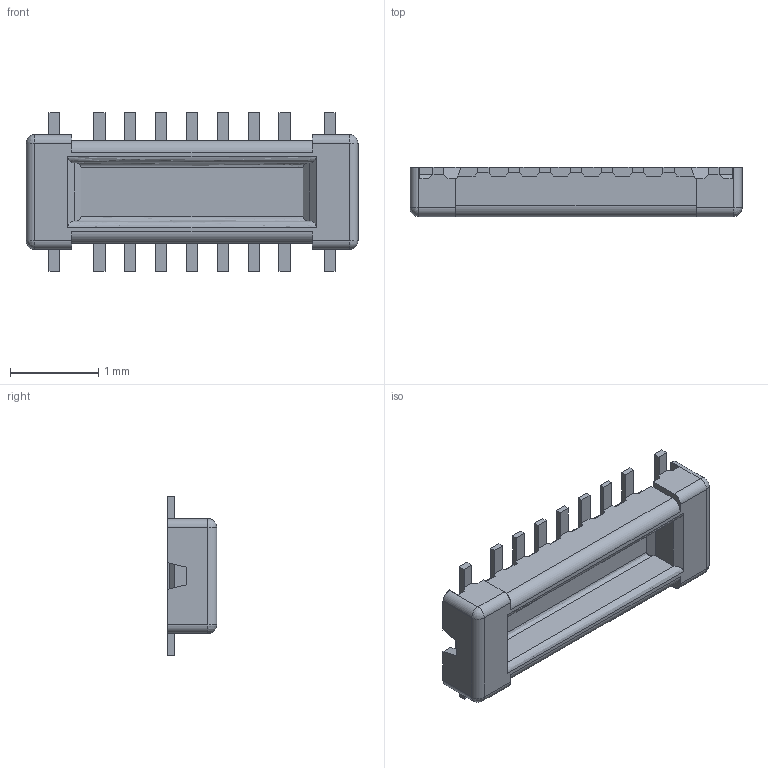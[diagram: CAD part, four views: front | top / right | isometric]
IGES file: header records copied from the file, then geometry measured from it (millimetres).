
Start section: SolidWorks IGES file using analytic representation for surfaces
Global section: file name: _exported\20708-014E-01 PLUG ASSY IGES R1 ALL.IGS; native system: SolidWorks 2023; preprocessor: SolidWorks 2023; author: 83197; date: 250221.135331; units: millimetre
Bounding box: 3.76 x 0.56 x 1.8 mm (x, y, z)
Surface area: 19.6 mm2 (no closed solid volume)
Topology: 0 solids, 0 shells, 237 faces, 1368 edges, 1364 vertices
Faces by surface type: bspline 217, revolution 20
